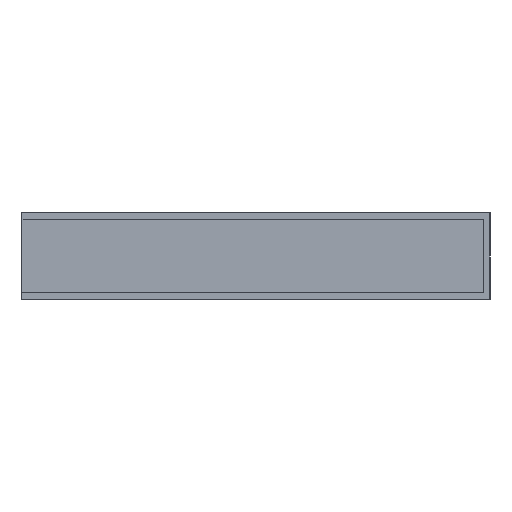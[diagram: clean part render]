
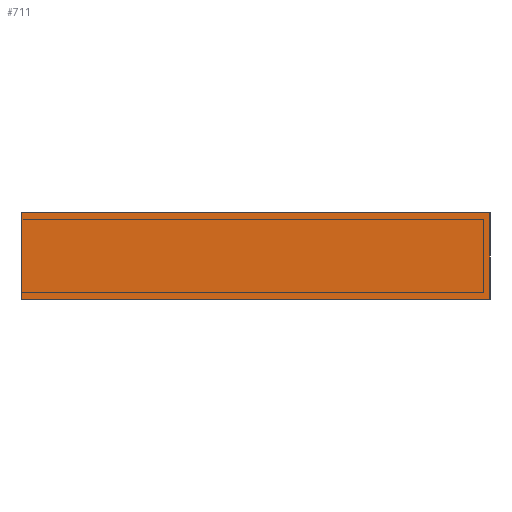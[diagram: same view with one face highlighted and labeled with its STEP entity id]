
A CAD part, left-side view. The second image highlights one B-rep face of the part: STEP entity #711.
In plain terms, the highlighted planar face has unit normal (-1, 0, 0).
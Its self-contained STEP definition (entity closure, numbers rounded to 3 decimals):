
#711 = ADVANCED_FACE( '', ( #1419 ), #1420, .F. );
#1419 = FACE_OUTER_BOUND( '', #2194, .T. );
#1420 = PLANE( '', #2195 );
#2194 = EDGE_LOOP( '', ( #3675, #3676, #3677, #3678 ) );
#2195 = AXIS2_PLACEMENT_3D( '', #3679, #3680, #3681 );
#3675 = ORIENTED_EDGE( '', *, *, #5070, .T. );
#3676 = ORIENTED_EDGE( '', *, *, #5002, .F. );
#3677 = ORIENTED_EDGE( '', *, *, #4845, .F. );
#3678 = ORIENTED_EDGE( '', *, *, #5092, .T. );
#3679 = CARTESIAN_POINT( '', ( -480., 0., 20. ) );
#3680 = DIRECTION( '', ( 1., 0., 0. ) );
#3681 = DIRECTION( '', ( 0., 0., -1. ) );
#4845 = EDGE_CURVE( '', #5844, #5846, #5847, .T. );
#5002 = EDGE_CURVE( '', #5846, #6068, #6070, .T. );
#5070 = EDGE_CURVE( '', #6156, #6068, #6159, .T. );
#5092 = EDGE_CURVE( '', #5844, #6156, #6183, .T. );
#5844 = VERTEX_POINT( '', #7256 );
#5846 = VERTEX_POINT( '', #7259 );
#5847 = LINE( '', #7260, #7261 );
#6068 = VERTEX_POINT( '', #7613 );
#6070 = LINE( '', #7616, #7617 );
#6156 = VERTEX_POINT( '', #7733 );
#6159 = LINE( '', #7738, #7739 );
#6183 = LINE( '', #7771, #7772 );
#7256 = CARTESIAN_POINT( '', ( -480., 0., 20. ) );
#7259 = CARTESIAN_POINT( '', ( -480., -108., 20. ) );
#7260 = CARTESIAN_POINT( '', ( -480., 0., 20. ) );
#7261 = VECTOR( '', #8461, 1000. );
#7613 = CARTESIAN_POINT( '', ( -480., -108., 0. ) );
#7616 = CARTESIAN_POINT( '', ( -480., -108., 20. ) );
#7617 = VECTOR( '', #8676, 1000. );
#7733 = CARTESIAN_POINT( '', ( -480., 0., 0. ) );
#7738 = CARTESIAN_POINT( '', ( -480., 0., 0. ) );
#7739 = VECTOR( '', #8751, 1000. );
#7771 = CARTESIAN_POINT( '', ( -480., 0., 20. ) );
#7772 = VECTOR( '', #8769, 1000. );
#8461 = DIRECTION( '', ( 0., -1., 0. ) );
#8676 = DIRECTION( '', ( 0., 0., -1. ) );
#8751 = DIRECTION( '', ( 0., -1., 0. ) );
#8769 = DIRECTION( '', ( 0., 0., -1. ) );
